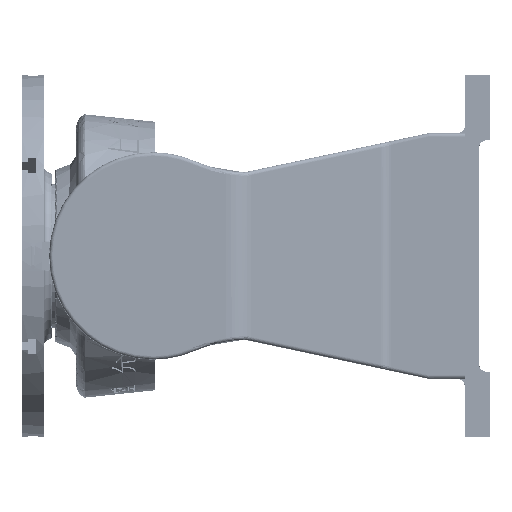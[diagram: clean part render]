
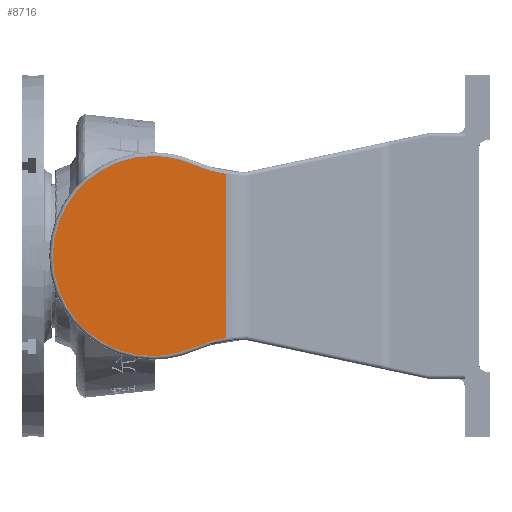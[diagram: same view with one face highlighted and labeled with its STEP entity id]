
A CAD part, left-side view. The second image highlights one B-rep face of the part: STEP entity #8716.
In plain terms, the highlighted planar face has unit normal (-1, 0, 0) as drawn and (0, 0, 1) by its records, which use the part's own axes.
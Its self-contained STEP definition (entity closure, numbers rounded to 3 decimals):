
#8667=AXIS2_PLACEMENT_3D('Plane Axis2P3D',#8664,#8665,#8666) ;
#8671=AXIS2_PLACEMENT_3D('Circle Axis2P3D',#8669,#8670,$) ;
#8680=AXIS2_PLACEMENT_3D('Circle Axis2P3D',#8678,#8679,$) ;
#8687=AXIS2_PLACEMENT_3D('Circle Axis2P3D',#8685,#8686,$) ;
#8580=CARTESIAN_POINT('Line Origine',(315.601,305.711,270.)) ;
#8584=CARTESIAN_POINT('Vertex',(-113.539,305.711,270.)) ;
#8586=CARTESIAN_POINT('Vertex',(113.539,305.711,270.)) ;
#8664=CARTESIAN_POINT('Axis2P3D Location',(315.601,271.128,270.)) ;
#8669=CARTESIAN_POINT('Axis2P3D Location',(0.,406.565,270.)) ;
#8673=CARTESIAN_POINT('Vertex',(127.215,351.972,270.)) ;
#8675=CARTESIAN_POINT('Vertex',(138.435,406.565,270.)) ;
#8678=CARTESIAN_POINT('Axis2P3D Location',(0.,406.565,270.)) ;
#8682=CARTESIAN_POINT('Vertex',(-138.435,406.565,270.)) ;
#8685=CARTESIAN_POINT('Axis2P3D Location',(0.,406.565,270.)) ;
#8689=CARTESIAN_POINT('Vertex',(-127.215,351.972,270.)) ;
#8693=CARTESIAN_POINT('Control Point',(-127.215,351.972,270.)) ;
#8694=CARTESIAN_POINT('Control Point',(-123.402,343.085,270.)) ;
#8695=CARTESIAN_POINT('Control Point',(-120.112,333.974,270.)) ;
#8696=CARTESIAN_POINT('Control Point',(-117.364,324.678,270.)) ;
#8697=CARTESIAN_POINT('Control Point',(-115.171,315.243,270.)) ;
#8698=CARTESIAN_POINT('Control Point',(-113.539,305.711,270.)) ;
#8701=CARTESIAN_POINT('Control Point',(113.539,305.711,270.)) ;
#8702=CARTESIAN_POINT('Control Point',(115.171,315.243,270.)) ;
#8703=CARTESIAN_POINT('Control Point',(117.364,324.678,270.)) ;
#8704=CARTESIAN_POINT('Control Point',(120.112,333.974,270.)) ;
#8705=CARTESIAN_POINT('Control Point',(123.402,343.085,270.)) ;
#8706=CARTESIAN_POINT('Control Point',(127.215,351.972,270.)) ;
#8581=DIRECTION('Vector Direction',(1.,0.,0.)) ;
#8665=DIRECTION('Axis2P3D Direction',(0.,0.,1.)) ;
#8666=DIRECTION('Axis2P3D XDirection',(1.,0.,0.)) ;
#8670=DIRECTION('Axis2P3D Direction',(0.,0.,1.)) ;
#8679=DIRECTION('Axis2P3D Direction',(0.,0.,1.)) ;
#8686=DIRECTION('Axis2P3D Direction',(0.,0.,1.)) ;
#8582=VECTOR('Line Direction',#8581,1.) ;
#8709=ORIENTED_EDGE('',*,*,#8677,.T.) ;
#8710=ORIENTED_EDGE('',*,*,#8684,.T.) ;
#8711=ORIENTED_EDGE('',*,*,#8691,.T.) ;
#8712=ORIENTED_EDGE('',*,*,#8699,.T.) ;
#8713=ORIENTED_EDGE('',*,*,#8588,.T.) ;
#8714=ORIENTED_EDGE('',*,*,#8707,.T.) ;
#8716=ADVANCED_FACE('\X2\570689D2\X0\8',(#8715),#8668,.T.) ;
#8692=B_SPLINE_CURVE_WITH_KNOTS('',5,(#8693,#8694,#8695,#8696,#8697,#8698),.UNSPECIFIED.,.F.,.U.,(6,6),(0.,68.42),.UNSPECIFIED.) ;
#8700=B_SPLINE_CURVE_WITH_KNOTS('',5,(#8701,#8702,#8703,#8704,#8705,#8706),.UNSPECIFIED.,.F.,.U.,(6,6),(0.,68.42),.UNSPECIFIED.) ;
#8672=CIRCLE('generated circle',#8671,138.435) ;
#8681=CIRCLE('generated circle',#8680,138.435) ;
#8688=CIRCLE('generated circle',#8687,138.435) ;
#8588=EDGE_CURVE('',#8585,#8587,#8583,.T.) ;
#8677=EDGE_CURVE('',#8674,#8676,#8672,.T.) ;
#8684=EDGE_CURVE('',#8676,#8683,#8681,.T.) ;
#8691=EDGE_CURVE('',#8683,#8690,#8688,.T.) ;
#8699=EDGE_CURVE('',#8690,#8585,#8692,.T.) ;
#8707=EDGE_CURVE('',#8587,#8674,#8700,.T.) ;
#8708=EDGE_LOOP('',(#8709,#8710,#8711,#8712,#8713,#8714)) ;
#8715=FACE_OUTER_BOUND('',#8708,.T.) ;
#8583=LINE('Line',#8580,#8582) ;
#8668=PLANE('',#8667) ;
#8585=VERTEX_POINT('',#8584) ;
#8587=VERTEX_POINT('',#8586) ;
#8674=VERTEX_POINT('',#8673) ;
#8676=VERTEX_POINT('',#8675) ;
#8683=VERTEX_POINT('',#8682) ;
#8690=VERTEX_POINT('',#8689) ;
